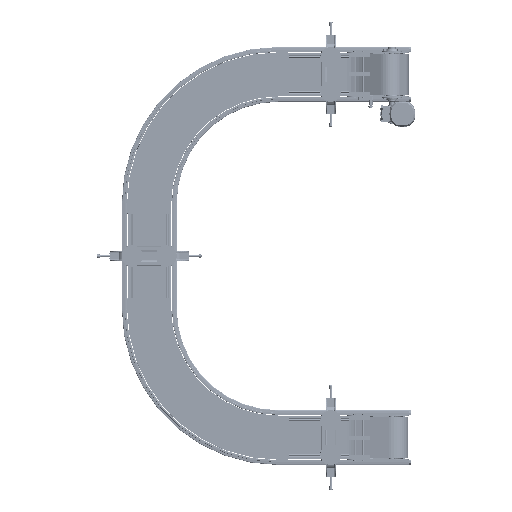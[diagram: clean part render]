
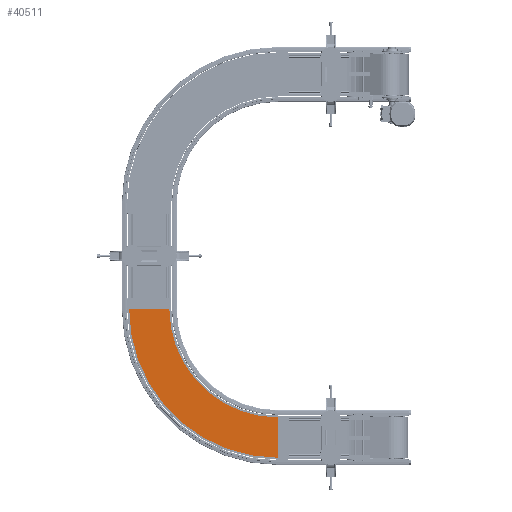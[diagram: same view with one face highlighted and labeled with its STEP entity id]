
A CAD part, front view. The second image highlights one B-rep face of the part: STEP entity #40511.
In plain terms, the highlighted planar face has unit normal (0, -1, 0).
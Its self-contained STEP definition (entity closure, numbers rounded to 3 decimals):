
#2249 = AXIS2_PLACEMENT_3D ( 'NONE', #221670, #66928, #202506 ) ;
#11581 = CIRCLE ( 'NONE', #89212, 705.25 ) ;
#11743 = LINE ( 'NONE', #92322, #124881 ) ;
#19723 = CARTESIAN_POINT ( 'NONE',  ( -1110., -120.83, 1030.25 ) ) ;
#27617 = DIRECTION ( 'NONE',  ( 0., -1., 0. ) ) ;
#40511 = ADVANCED_FACE ( 'NONE', ( #124803 ), #103116, .T. ) ;
#48442 = VERTEX_POINT ( 'NONE', #133068 ) ;
#56111 = ORIENTED_EDGE ( 'NONE', *, *, #198491, .T. ) ;
#57723 = EDGE_LOOP ( 'NONE', ( #56111, #137430, #103255, #160313 ) ) ;
#66928 = DIRECTION ( 'NONE',  ( 0., -1., 0. ) ) ;
#72406 = EDGE_CURVE ( 'NONE', #190751, #78058, #198428, .T. ) ;
#78058 = VERTEX_POINT ( 'NONE', #119995 ) ;
#86440 = DIRECTION ( 'NONE',  ( 0., 0., -1. ) ) ;
#87951 = DIRECTION ( 'NONE',  ( 0., -1., 0. ) ) ;
#89212 = AXIS2_PLACEMENT_3D ( 'NONE', #242695, #87951, #243933 ) ;
#89817 = DIRECTION ( 'NONE',  ( 0., 0., 1. ) ) ;
#92322 = CARTESIAN_POINT ( 'NONE',  ( -1110., -120.83, 1030.25 ) ) ;
#103116 = PLANE ( 'NONE',  #198572 ) ;
#103255 = ORIENTED_EDGE ( 'NONE', *, *, #72406, .F. ) ;
#104264 = VECTOR ( 'NONE', #120076, 1000. ) ;
#119995 = CARTESIAN_POINT ( 'NONE',  ( -1624.75, -120.83, 325. ) ) ;
#120076 = DIRECTION ( 'NONE',  ( -1., 0., 0. ) ) ;
#124803 = FACE_OUTER_BOUND ( 'NONE', #57723, .T. ) ;
#124881 = VECTOR ( 'NONE', #89817, 1000. ) ;
#133068 = CARTESIAN_POINT ( 'NONE',  ( -1815.25, -120.83, 325. ) ) ;
#137430 = ORIENTED_EDGE ( 'NONE', *, *, #247432, .F. ) ;
#139169 = CARTESIAN_POINT ( 'NONE',  ( -1110., -120.83, 839.75 ) ) ;
#139235 = CARTESIAN_POINT ( 'NONE',  ( -1815.25, -120.83, 325. ) ) ;
#160313 = ORIENTED_EDGE ( 'NONE', *, *, #249400, .T. ) ;
#175147 = LINE ( 'NONE', #139235, #104264 ) ;
#185645 = VERTEX_POINT ( 'NONE', #19723 ) ;
#190751 = VERTEX_POINT ( 'NONE', #139169 ) ;
#198428 = CIRCLE ( 'NONE', #2249, 514.75 ) ;
#198491 = EDGE_CURVE ( 'NONE', #185645, #48442, #11581, .T. ) ;
#198572 = AXIS2_PLACEMENT_3D ( 'NONE', #199073, #27617, #86440 ) ;
#199073 = CARTESIAN_POINT ( 'NONE',  ( -1110., -120.83, 1030.25 ) ) ;
#202506 = DIRECTION ( 'NONE',  ( 0., 0., 1. ) ) ;
#221670 = CARTESIAN_POINT ( 'NONE',  ( -1110., -120.83, 325. ) ) ;
#242695 = CARTESIAN_POINT ( 'NONE',  ( -1110., -120.83, 325. ) ) ;
#243933 = DIRECTION ( 'NONE',  ( 0., 0., 1. ) ) ;
#247432 = EDGE_CURVE ( 'NONE', #78058, #48442, #175147, .T. ) ;
#249400 = EDGE_CURVE ( 'NONE', #190751, #185645, #11743, .T. ) ;
